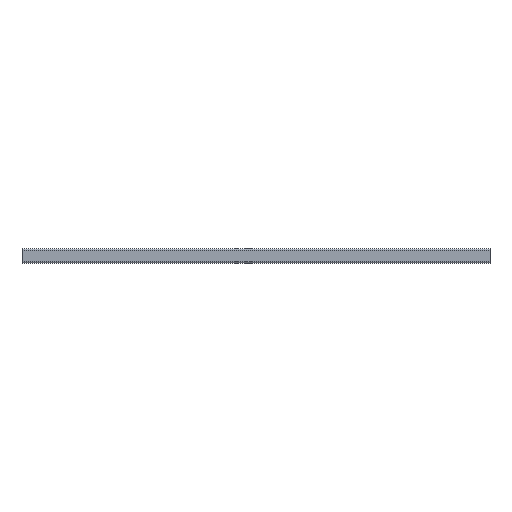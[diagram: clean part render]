
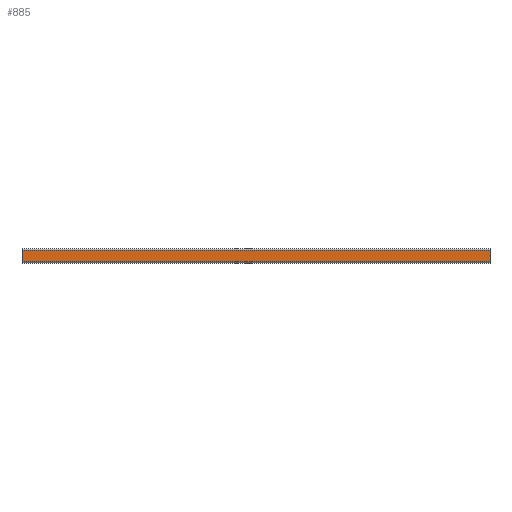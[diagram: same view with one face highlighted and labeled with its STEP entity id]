
A CAD part, top view. The second image highlights one B-rep face of the part: STEP entity #885.
In plain terms, the highlighted planar face has unit normal (0, 0, 1).
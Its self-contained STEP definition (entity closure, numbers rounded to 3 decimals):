
#392 = VECTOR ( 'NONE', #2487, 1000. ) ;
#620 = EDGE_CURVE ( 'NONE', #1032, #4156, #2444, .T. ) ;
#722 = DIRECTION ( 'NONE',  ( -1., 0., 0. ) ) ;
#885 = ADVANCED_FACE ( 'NONE', ( #2194 ), #4142, .F. ) ;
#952 = ORIENTED_EDGE ( 'NONE', *, *, #2354, .F. ) ;
#1032 = VERTEX_POINT ( 'NONE', #2912 ) ;
#1084 = CARTESIAN_POINT ( 'NONE',  ( 0., 12.499, 15. ) ) ;
#1154 = DIRECTION ( 'NONE',  ( 0., 0., -1. ) ) ;
#1361 = EDGE_LOOP ( 'NONE', ( #3457, #952, #3281, #2633 ) ) ;
#1460 = DIRECTION ( 'NONE',  ( 0., -1., 0. ) ) ;
#1514 = DIRECTION ( 'NONE',  ( 0., 1., 0. ) ) ;
#1605 = EDGE_CURVE ( 'NONE', #1978, #2994, #3068, .T. ) ;
#1645 = CARTESIAN_POINT ( 'NONE',  ( 0., -12.501, 15. ) ) ;
#1762 = AXIS2_PLACEMENT_3D ( 'NONE', #1841, #1154, #1514 ) ;
#1841 = CARTESIAN_POINT ( 'NONE',  ( 1000., 12.499, 15. ) ) ;
#1978 = VERTEX_POINT ( 'NONE', #3654 ) ;
#2108 = CARTESIAN_POINT ( 'NONE',  ( 1000., -12.501, 15. ) ) ;
#2194 = FACE_OUTER_BOUND ( 'NONE', #1361, .T. ) ;
#2354 = EDGE_CURVE ( 'NONE', #4156, #2994, #3732, .T. ) ;
#2442 = VECTOR ( 'NONE', #722, 1000. ) ;
#2444 = LINE ( 'NONE', #3056, #2451 ) ;
#2451 = VECTOR ( 'NONE', #1460, 1000. ) ;
#2487 = DIRECTION ( 'NONE',  ( -1., 0., 0. ) ) ;
#2633 = ORIENTED_EDGE ( 'NONE', *, *, #3307, .T. ) ;
#2776 = DIRECTION ( 'NONE',  ( 0., -1., 0. ) ) ;
#2912 = CARTESIAN_POINT ( 'NONE',  ( 1000., 12.499, 15. ) ) ;
#2994 = VERTEX_POINT ( 'NONE', #1645 ) ;
#3056 = CARTESIAN_POINT ( 'NONE',  ( 1000., 12.499, 15. ) ) ;
#3068 = LINE ( 'NONE', #1084, #3649 ) ;
#3168 = LINE ( 'NONE', #3838, #392 ) ;
#3281 = ORIENTED_EDGE ( 'NONE', *, *, #620, .F. ) ;
#3307 = EDGE_CURVE ( 'NONE', #1032, #1978, #3168, .T. ) ;
#3457 = ORIENTED_EDGE ( 'NONE', *, *, #1605, .T. ) ;
#3480 = CARTESIAN_POINT ( 'NONE',  ( 1000., -12.501, 15. ) ) ;
#3649 = VECTOR ( 'NONE', #2776, 1000. ) ;
#3654 = CARTESIAN_POINT ( 'NONE',  ( 0., 12.499, 15. ) ) ;
#3732 = LINE ( 'NONE', #2108, #2442 ) ;
#3838 = CARTESIAN_POINT ( 'NONE',  ( 1000., 12.499, 15. ) ) ;
#4142 = PLANE ( 'NONE',  #1762 ) ;
#4156 = VERTEX_POINT ( 'NONE', #3480 ) ;
